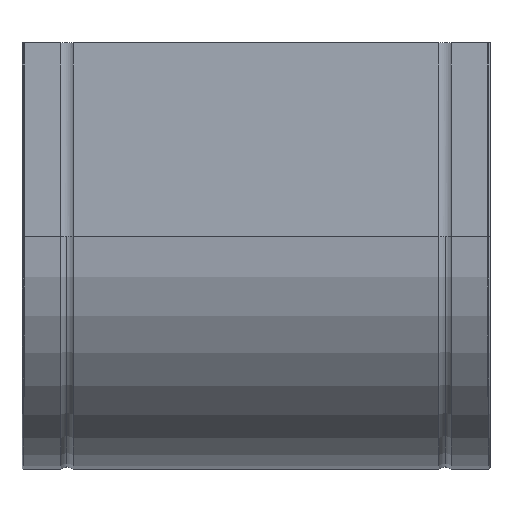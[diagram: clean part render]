
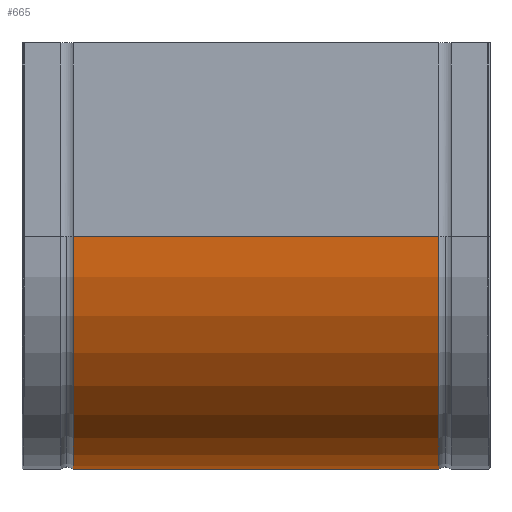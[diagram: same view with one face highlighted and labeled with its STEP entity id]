
A CAD part, front view. The second image highlights one B-rep face of the part: STEP entity #665.
In plain terms, the highlighted cylindrical face has radius 150 mm (diameter 300 mm), a partial arc.
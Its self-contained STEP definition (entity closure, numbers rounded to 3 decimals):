
#77 = CARTESIAN_POINT ( 'NONE',  ( 0., 150., -125. ) ) ;
#136 = CARTESIAN_POINT ( 'NONE',  ( -118., 150., -275. ) ) ;
#147 = CARTESIAN_POINT ( 'NONE',  ( 118., 0., -125. ) ) ;
#188 = CIRCLE ( 'NONE', #2126, 150. ) ;
#189 = EDGE_LOOP ( 'NONE', ( #365, #417, #1409, #1522 ) ) ;
#290 = DIRECTION ( 'NONE',  ( 0., 0., -1. ) ) ;
#355 = CARTESIAN_POINT ( 'NONE',  ( 118., 150., -275. ) ) ;
#365 = ORIENTED_EDGE ( 'NONE', *, *, #1387, .F. ) ;
#417 = ORIENTED_EDGE ( 'NONE', *, *, #719, .T. ) ;
#665 = ADVANCED_FACE ( 'NONE', ( #1135 ), #1771, .T. ) ;
#719 = EDGE_CURVE ( 'NONE', #2193, #1419, #188, .T. ) ;
#815 = VECTOR ( 'NONE', #2284, 1000. ) ;
#850 = AXIS2_PLACEMENT_3D ( 'NONE', #2436, #1173, #2201 ) ;
#927 = EDGE_CURVE ( 'NONE', #1904, #2678, #2346, .T. ) ;
#1135 = FACE_OUTER_BOUND ( 'NONE', #189, .T. ) ;
#1173 = DIRECTION ( 'NONE',  ( 1., 0., 0. ) ) ;
#1387 = EDGE_CURVE ( 'NONE', #2193, #1904, #2393, .T. ) ;
#1409 = ORIENTED_EDGE ( 'NONE', *, *, #2320, .T. ) ;
#1415 = LINE ( 'NONE', #1448, #815 ) ;
#1419 = VERTEX_POINT ( 'NONE', #136 ) ;
#1448 = CARTESIAN_POINT ( 'NONE',  ( -118., 150., -275. ) ) ;
#1458 = AXIS2_PLACEMENT_3D ( 'NONE', #77, #2545, #290 ) ;
#1467 = VECTOR ( 'NONE', #2433, 1000. ) ;
#1522 = ORIENTED_EDGE ( 'NONE', *, *, #927, .F. ) ;
#1771 = CYLINDRICAL_SURFACE ( 'NONE', #1458, 150. ) ;
#1809 = CARTESIAN_POINT ( 'NONE',  ( -118., 0., -125. ) ) ;
#1828 = CARTESIAN_POINT ( 'NONE',  ( -118., 0., -125. ) ) ;
#1904 = VERTEX_POINT ( 'NONE', #147 ) ;
#1988 = CARTESIAN_POINT ( 'NONE',  ( -118., 150., -125. ) ) ;
#2126 = AXIS2_PLACEMENT_3D ( 'NONE', #1988, #2457, #2632 ) ;
#2193 = VERTEX_POINT ( 'NONE', #1828 ) ;
#2201 = DIRECTION ( 'NONE',  ( 0., 0., -1. ) ) ;
#2284 = DIRECTION ( 'NONE',  ( 1., 0., 0. ) ) ;
#2320 = EDGE_CURVE ( 'NONE', #1419, #2678, #1415, .T. ) ;
#2346 = CIRCLE ( 'NONE', #850, 150. ) ;
#2393 = LINE ( 'NONE', #1809, #1467 ) ;
#2433 = DIRECTION ( 'NONE',  ( 1., 0., 0. ) ) ;
#2436 = CARTESIAN_POINT ( 'NONE',  ( 118., 150., -125. ) ) ;
#2457 = DIRECTION ( 'NONE',  ( 1., 0., 0. ) ) ;
#2545 = DIRECTION ( 'NONE',  ( 1., 0., 0. ) ) ;
#2632 = DIRECTION ( 'NONE',  ( 0., 0., -1. ) ) ;
#2678 = VERTEX_POINT ( 'NONE', #355 ) ;
